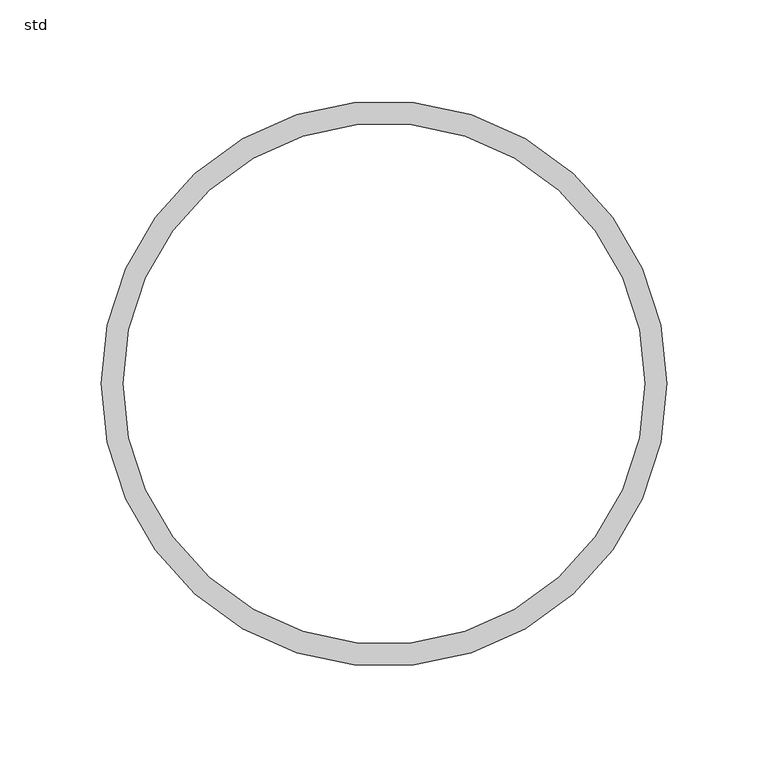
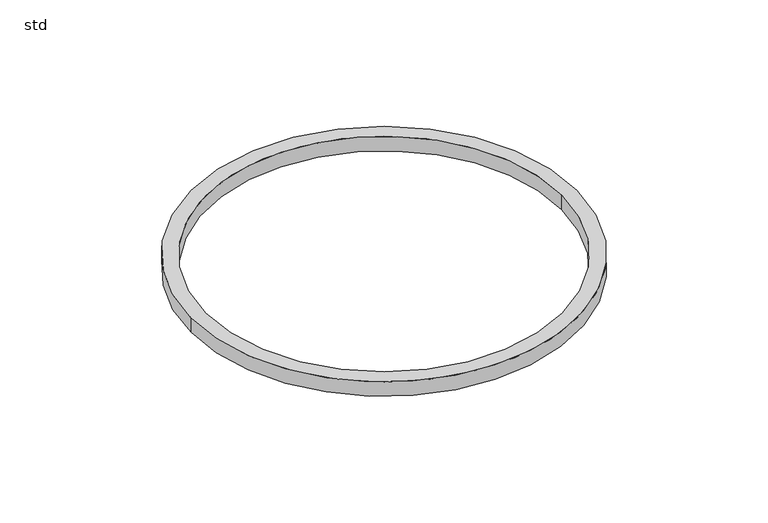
"""IFC4 building model written with IfcOpenShell, lengths in millimetres: pipe fitting geometry, NLRS_52_PIF_WPB_Ultra Kyma dichtingsring SH_Dyka : std."""

from ifc_helpers import new_model, si_unit, point, origin, origin_with_axes, origin_2d, place, context, project, spatial, circle_curve, trimmed, segment, composite_curve, outline, extrude, source, transform, mapped, element, save


def std_5c18e9fd(model_context):
    return source(origin(), model_context, "Body", "SweptSolid", [
        extrude(outline(composite_curve([segment(trimmed(circle_curve(origin_2d(), 140.0), [point((-140.0, 0.0))], [point((140.0, 0.0))], False, "CARTESIAN"), True, "CONTINUOUS"), segment(trimmed(circle_curve(origin_2d(), 140.0), [point((140.0, 0.0))], [point((-140.0, 0.0))], False, "CARTESIAN"), True, "CONTINUOUS")], self_intersect=False), holes=[composite_curve([segment(trimmed(circle_curve(origin_2d(), 129.0), [point((129.0, 0.0))], [point((-129.0, 0.0))], True, "CARTESIAN"), True, "CONTINUOUS"), segment(trimmed(circle_curve(origin_2d(), 129.0), [point((-129.0, 0.0))], [point((129.0, 0.0))], True, "CARTESIAN"), True, "CONTINUOUS")], self_intersect=False)]), origin_with_axes(), (0.0, 0.0, 1.0), 11.0),
    ])


if __name__ == "__main__":
    model = new_model("IFC4")
    model_context = context("Model", 3, world=origin())
    ifc_project = project(units=[si_unit("LENGTHUNIT", "METRE", prefix="MILLI")], contexts=[model_context])
    site = spatial("IfcSite", under=ifc_project)
    building = spatial("IfcBuilding", under=site)
    placement = place(None, origin())
    std_shape = std_5c18e9fd(model_context)
    element("IfcPipeFitting", 1, ObjectType="NLRS_52_PIF_WPB_Ultra Kyma dichtingsring SH_Dyka : std", at=placement, inside=building, context=model_context, shape_type="MappedRepresentation", body=[
        mapped(std_shape, transform((0.0, 0.0, 0.0), x_axis=(1.0, 0.0, 0.0), y_axis=(0.0, 1.0, 0.0), z_axis=(0.0, 0.0, 1.0))),
    ])
    save(model, "model.ifc")
